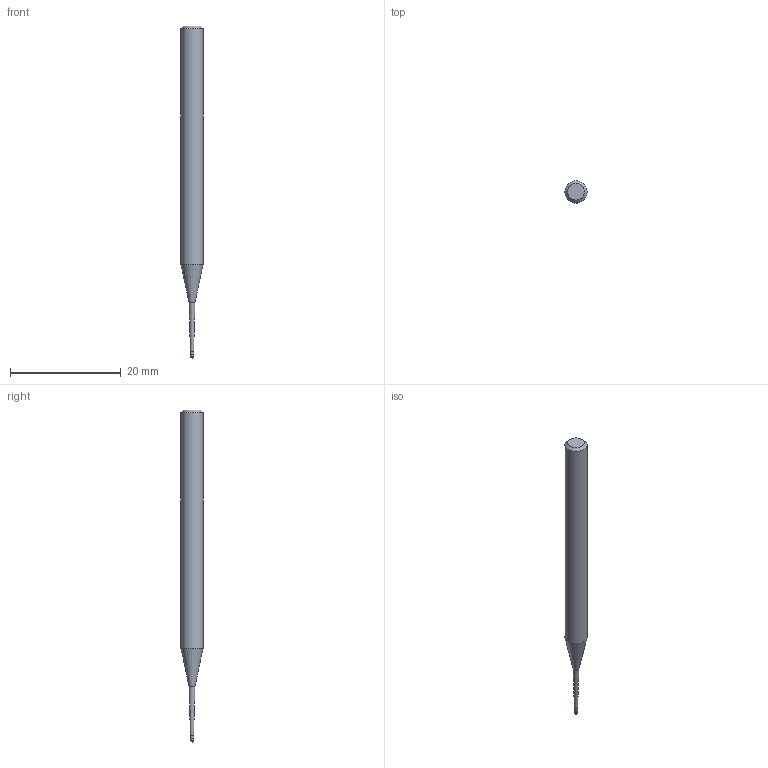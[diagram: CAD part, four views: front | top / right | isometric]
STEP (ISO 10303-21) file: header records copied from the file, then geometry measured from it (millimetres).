
FILE_DESCRIPTION((''),'2;1');
FILE_NAME('C:\Users\nsx150\AppData\Local\Temp\Mastercam 2021\SNAKH10GOD\TEMP.step','2021-10-21T13:31:32',(''),(''),'STEP Write','Mastercam 2021 ... CNC Software, Inc.','');
FILE_SCHEMA(('AUTOMOTIVE_DESIGN'));
Length unit declared in the file: millimetre
Products named in the file (1): None
Bounding box: 4 x 4 x 60 mm (x, y, z)
Volume: 583.8 mm3; surface area: 631.7 mm2
Topology: 2 solids, 2 shells, 10 faces, 16 edges, 9 vertices
Faces by surface type: plane 3, cylinder 3, cone 3, sphere 1
Full cylindrical faces by diameter (mm): 0.585 x1, 0.6 x1, 4 x1
Entity records: 232 total; most frequent: DIRECTION 40, CARTESIAN_POINT 28, AXIS2_PLACEMENT_3D 20, ORIENTED_EDGE 16, EDGE_LOOP 16, STYLED_ITEM 13, ADVANCED_FACE 10, FACE_BOUND 9
